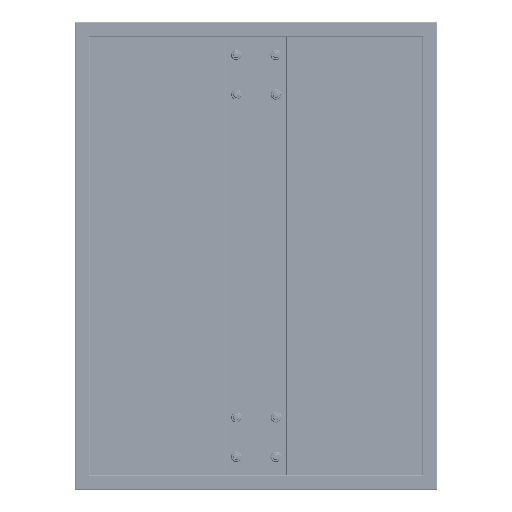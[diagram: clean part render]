
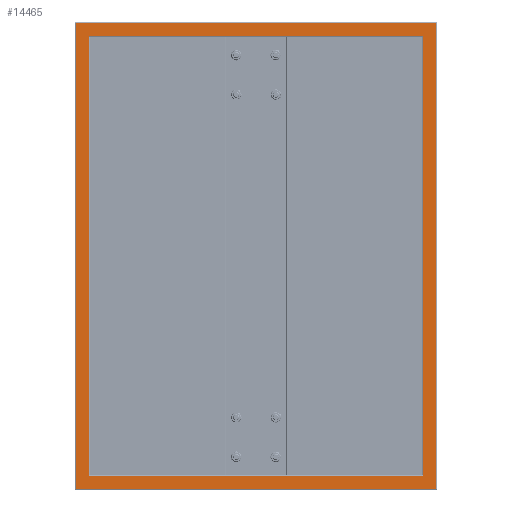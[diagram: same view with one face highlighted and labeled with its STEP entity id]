
A CAD part, front view. The second image highlights one B-rep face of the part: STEP entity #14465.
In plain terms, the highlighted planar face has unit normal (0, -1, 0).
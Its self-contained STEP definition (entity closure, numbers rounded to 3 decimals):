
#1985 = LINE ( 'NONE', #98549, #171766 ) ;
#3891 = VERTEX_POINT ( 'NONE', #85921 ) ;
#4969 = CARTESIAN_POINT ( 'NONE',  ( 239., -41.5, -309. ) ) ;
#7042 = VERTEX_POINT ( 'NONE', #8168 ) ;
#7222 = VECTOR ( 'NONE', #165003, 1000. ) ;
#8168 = CARTESIAN_POINT ( 'NONE',  ( 221., -41.5, 291. ) ) ;
#8846 = LINE ( 'NONE', #61660, #39173 ) ;
#11858 = ORIENTED_EDGE ( 'NONE', *, *, #20064, .T. ) ;
#14465 = ADVANCED_FACE ( 'NONE', ( #83302, #138728 ), #137847, .T. ) ;
#15591 = EDGE_CURVE ( 'NONE', #95288, #3891, #172984, .T. ) ;
#16663 = VECTOR ( 'NONE', #89835, 1000. ) ;
#20064 = EDGE_CURVE ( 'NONE', #153787, #95816, #1985, .T. ) ;
#20678 = ORIENTED_EDGE ( 'NONE', *, *, #59220, .F. ) ;
#24183 = EDGE_CURVE ( 'NONE', #3891, #40097, #8846, .T. ) ;
#24402 = ORIENTED_EDGE ( 'NONE', *, *, #149643, .T. ) ;
#25460 = CARTESIAN_POINT ( 'NONE',  ( 221., -41.5, 291. ) ) ;
#27017 = CARTESIAN_POINT ( 'NONE',  ( 240., -41.5, 291. ) ) ;
#28728 = ORIENTED_EDGE ( 'NONE', *, *, #92835, .T. ) ;
#34434 = CARTESIAN_POINT ( 'NONE',  ( -239., -41.5, -310. ) ) ;
#39173 = VECTOR ( 'NONE', #60779, 1000. ) ;
#40097 = VERTEX_POINT ( 'NONE', #4969 ) ;
#45724 = VERTEX_POINT ( 'NONE', #151406 ) ;
#48874 = ORIENTED_EDGE ( 'NONE', *, *, #24183, .F. ) ;
#49615 = CARTESIAN_POINT ( 'NONE',  ( 240., -41.5, 309. ) ) ;
#50113 = VERTEX_POINT ( 'NONE', #55585 ) ;
#54052 = DIRECTION ( 'NONE',  ( 0., 0., -1. ) ) ;
#55585 = CARTESIAN_POINT ( 'NONE',  ( -239., -41.5, -309. ) ) ;
#57896 = EDGE_LOOP ( 'NONE', ( #20678, #48874, #164999, #165570 ) ) ;
#59220 = EDGE_CURVE ( 'NONE', #40097, #50113, #157505, .T. ) ;
#59985 = VECTOR ( 'NONE', #61229, 1000. ) ;
#60779 = DIRECTION ( 'NONE',  ( 0., 0., -1. ) ) ;
#61229 = DIRECTION ( 'NONE',  ( 0., 0., 1. ) ) ;
#61660 = CARTESIAN_POINT ( 'NONE',  ( 239., -41.5, -310. ) ) ;
#64936 = AXIS2_PLACEMENT_3D ( 'NONE', #27017, #151243, #152123 ) ;
#66049 = EDGE_LOOP ( 'NONE', ( #78210, #11858, #24402, #28728 ) ) ;
#70219 = CARTESIAN_POINT ( 'NONE',  ( 240., -41.5, -291. ) ) ;
#75351 = VECTOR ( 'NONE', #54052, 1000. ) ;
#78210 = ORIENTED_EDGE ( 'NONE', *, *, #142892, .T. ) ;
#78271 = CARTESIAN_POINT ( 'NONE',  ( 240., -41.5, 291. ) ) ;
#80099 = LINE ( 'NONE', #70219, #7222 ) ;
#80873 = LINE ( 'NONE', #25460, #75351 ) ;
#83302 = FACE_OUTER_BOUND ( 'NONE', #57896, .T. ) ;
#85921 = CARTESIAN_POINT ( 'NONE',  ( 239., -41.5, 309. ) ) ;
#89561 = DIRECTION ( 'NONE',  ( -1., 0., 0. ) ) ;
#89835 = DIRECTION ( 'NONE',  ( 1., 0., 0. ) ) ;
#92835 = EDGE_CURVE ( 'NONE', #7042, #45724, #80873, .T. ) ;
#95288 = VERTEX_POINT ( 'NONE', #139876 ) ;
#95816 = VERTEX_POINT ( 'NONE', #119666 ) ;
#96788 = DIRECTION ( 'NONE',  ( 0., 0., 1. ) ) ;
#98549 = CARTESIAN_POINT ( 'NONE',  ( -221., -41.5, 291. ) ) ;
#98815 = LINE ( 'NONE', #34434, #59985 ) ;
#103240 = VECTOR ( 'NONE', #158740, 1000. ) ;
#119666 = CARTESIAN_POINT ( 'NONE',  ( -221., -41.5, 291. ) ) ;
#133586 = EDGE_CURVE ( 'NONE', #50113, #95288, #98815, .T. ) ;
#133678 = LINE ( 'NONE', #78271, #103240 ) ;
#134884 = CARTESIAN_POINT ( 'NONE',  ( -221., -41.5, -291. ) ) ;
#137847 = PLANE ( 'NONE',  #64936 ) ;
#138728 = FACE_BOUND ( 'NONE', #66049, .T. ) ;
#139876 = CARTESIAN_POINT ( 'NONE',  ( -239., -41.5, 309. ) ) ;
#142892 = EDGE_CURVE ( 'NONE', #45724, #153787, #80099, .T. ) ;
#144988 = CARTESIAN_POINT ( 'NONE',  ( -240., -41.5, -309. ) ) ;
#149643 = EDGE_CURVE ( 'NONE', #95816, #7042, #133678, .T. ) ;
#151021 = VECTOR ( 'NONE', #89561, 1000. ) ;
#151243 = DIRECTION ( 'NONE',  ( 0., -1., 0. ) ) ;
#151406 = CARTESIAN_POINT ( 'NONE',  ( 221., -41.5, -291. ) ) ;
#152123 = DIRECTION ( 'NONE',  ( 0., 0., -1. ) ) ;
#153787 = VERTEX_POINT ( 'NONE', #134884 ) ;
#157505 = LINE ( 'NONE', #144988, #151021 ) ;
#158740 = DIRECTION ( 'NONE',  ( 1., 0., 0. ) ) ;
#164999 = ORIENTED_EDGE ( 'NONE', *, *, #15591, .F. ) ;
#165003 = DIRECTION ( 'NONE',  ( -1., 0., 0. ) ) ;
#165570 = ORIENTED_EDGE ( 'NONE', *, *, #133586, .F. ) ;
#171766 = VECTOR ( 'NONE', #96788, 1000. ) ;
#172984 = LINE ( 'NONE', #49615, #16663 ) ;
